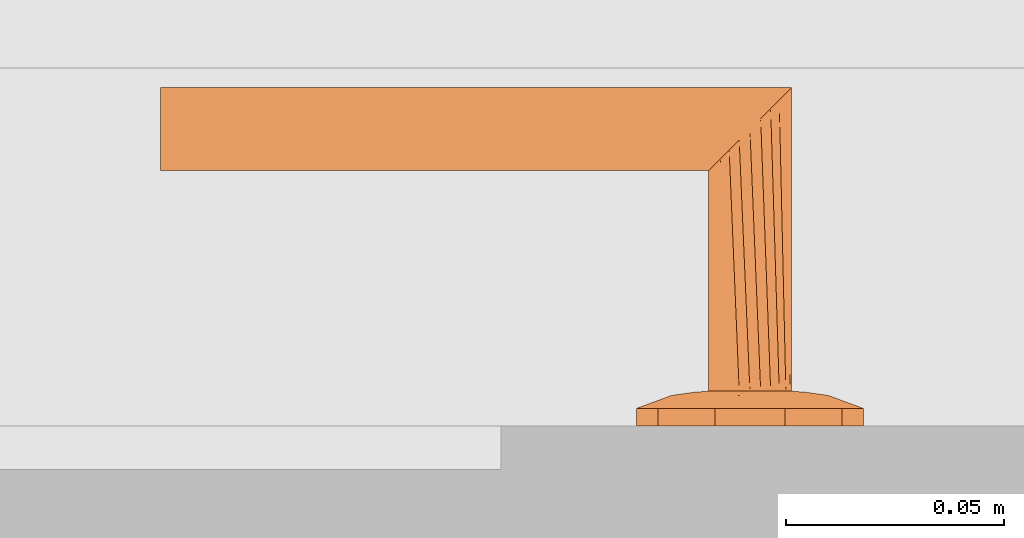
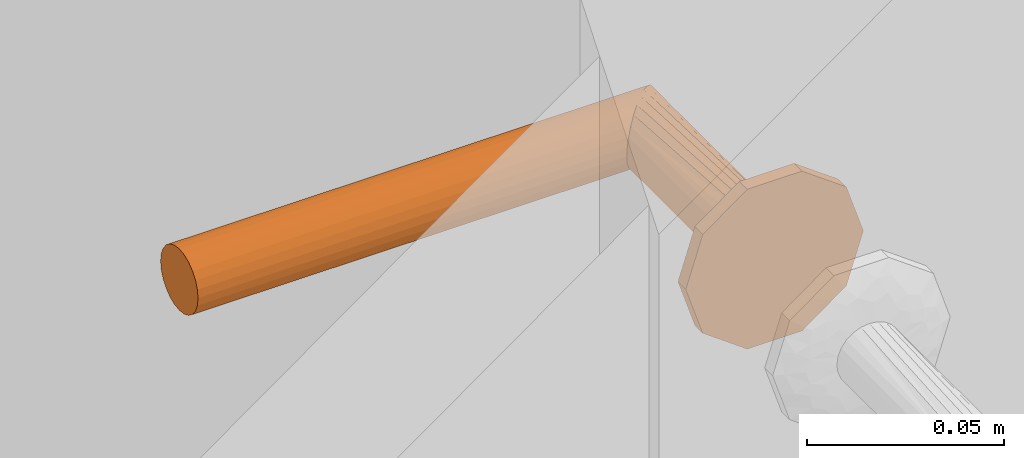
# One storey, part 23 of 55: 1 proxy.
"""IFC2X3 building model written with IfcOpenShell, lengths in millimetres."""

from ifc_helpers import new_model, entity, si_unit, converted_unit, direction, frame, origin, place, context, subcontext, project, spatial, faceted_brep, source, transform, mapped, material, type_object, type_shapes, element, save


model = new_model("IFC2X3")

# Units and contexts
model_context = context("Model", 3, precision=0.01, world=origin(), true_north=direction((6.123233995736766e-17, 1.0)))
plan_context = context("Plan", 3, precision=0.01, world=origin(), true_north=direction((6.123233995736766e-17, 1.0)))
body_context = subcontext(model_context, "Body", "Model", "MODEL_VIEW")
ifc_project = project(units=[si_unit("LENGTHUNIT", "METRE", prefix="MILLI"), converted_unit("PLANEANGLEUNIT", "DEGREE", entity("IfcPlaneAngleMeasure", 0.017453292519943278), si_unit("PLANEANGLEUNIT", "RADIAN"), dimensions=[0, 0, 0, 0, 0, 0, 0]), si_unit("AREAUNIT", "SQUARE_METRE")], contexts=[model_context, plan_context])

# Site, building, storey
site_placement = place(None, origin())
site = spatial("IfcSite", under=ifc_project, at=site_placement, Name="Default", CompositionType="ELEMENT")
building_placement = place(site_placement, origin())
building = spatial("IfcBuilding", under=site, at=building_placement, CompositionType="ELEMENT")
storey_placement = place(building_placement, origin())
storey = spatial("IfcBuildingStorey", under=building, at=storey_placement, Name="1K", CompositionType="ELEMENT", Elevation=0.0)

# Proxy
ifc_material = material(Name="<Unnamed>")
building_element_proxy_type = type_object("IfcBuildingElementProxyType", Name="Door-handle_Lever_ABLOY_INOXI_3-19ss-002_RT:Default", PredefinedType="NOTDEFINED", material=ifc_material)
shared_shape = source(origin(), body_context, "Body", "Brep", [
    faceted_brep([(0.0, 0.0, 0.0), (8.034441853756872, 24.72746942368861, 0.0), (14.534441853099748, 20.00494299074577, 0.0), (21.034441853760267, 15.282416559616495, 0.0), (23.51722092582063, 7.641208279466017, 0.0), (26.0, 0.0, 0.0), (23.517220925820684, -7.641208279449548, 0.0), (0.0, 24.72746942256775, 0.0), (-8.034441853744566, 24.727469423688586, 0.0), (-14.534441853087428, 20.00494299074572, 0.0), (-21.03444185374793, 15.282416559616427, 0.0), (-23.517220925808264, 7.641208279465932, 0.0), (-26.0, 0.0, 0.0), (21.034441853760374, -15.282416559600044, 0.0), (14.534441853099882, -20.004942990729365, 0.0), (8.034441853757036, -24.72746942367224, 0.0), (0.0, -24.72746942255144, 0.0), (-23.517220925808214, -7.641208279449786, 0.0), (-21.034441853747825, -15.282416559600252, 0.0), (-14.53444185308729, -20.004942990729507, 0.0), (-8.0344418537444, -24.72746942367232, 0.0), (0.0, 0.0, 8.0), (9.500000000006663, 0.0, 8.0), (8.312500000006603, 2.056810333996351, 8.0), (7.125000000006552, 4.113620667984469, 8.0), (5.937500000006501, 6.170431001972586, 8.0), (4.7500000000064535, 8.227241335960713, 8.0), (2.375000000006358, 8.2272413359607, 8.0), (0.0, 8.227241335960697, 8.0), (-2.3749999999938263, 8.227241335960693, 8.0), (-4.749999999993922, 8.227241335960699, 8.0), (-5.937499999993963, 6.1704310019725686, 8.0), (-7.124999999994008, 4.1136206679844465, 8.0), (-8.312499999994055, 2.0568103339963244, 8.0), (-9.499999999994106, 0.0, 8.0), (-8.31249999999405, -2.0568103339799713, 8.0), (8.312500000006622, -2.0568103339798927, 8.0), (7.125000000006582, -4.113620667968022, 8.0), (5.937500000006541, -6.170431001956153, 8.0), (4.750000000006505, -8.227241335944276, 8.0), (-7.124999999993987, -4.113620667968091, 8.0), (-5.9374999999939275, -6.17043100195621, 8.0), (-4.74999999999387, -8.227241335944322, 8.0), (-2.374999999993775, -8.227241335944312, 8.0), (0.0, -8.227241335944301, 8.0), (2.3750000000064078, -8.227241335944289, 8.0), (-20.6430713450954, 6.292822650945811, 5.929480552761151), (-16.663919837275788, 7.932665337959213, 6.877259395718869), (-22.48876527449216, 10.806469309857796, 4.030771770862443), (-16.764060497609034, 3.8202578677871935, 7.1747985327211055), (-12.504579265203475, 5.179566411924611, 7.774932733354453), (-11.979136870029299, 13.678312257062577, 6.945778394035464), (-11.963426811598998, 8.62529041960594, 7.618343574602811), (-9.07172672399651, 10.31160661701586, 7.7520782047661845), (8.03444185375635, 24.727469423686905, 4.030771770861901), (0.0, 24.72746942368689, 4.030771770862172), (5.758554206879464, 20.96753300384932, 5.871476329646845), (20.643071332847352, 6.292822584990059, 5.929480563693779), (22.488765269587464, 10.806469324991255, 4.03077177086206), (16.66391982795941, 7.9326653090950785, 6.877259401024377), (9.49943163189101, 18.6436835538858, 6.154325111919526), (14.534441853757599, 20.004942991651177, 4.030771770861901), (-14.534441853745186, 20.00494299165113, 4.030771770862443), (-21.034441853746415, 15.282416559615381, 4.030771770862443), (-15.783149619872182, 11.991003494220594, 6.50080018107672), (-23.943088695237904, 6.330522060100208, 4.030771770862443), (-23.012042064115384, 0.0, 5.135401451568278), (12.50457924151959, 5.179566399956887, 7.774932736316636), (11.963426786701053, 8.625290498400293, 7.618343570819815), (16.76406041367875, 3.820257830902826, 7.17479855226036), (15.783149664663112, 11.991003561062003, 6.50080015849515), (23.01204200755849, 0.0, 5.135401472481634), (17.9853516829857, 0.0, 6.993737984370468), (8.661516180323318, 10.478936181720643, 7.768126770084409), (-3.3573143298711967, 21.197247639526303, 5.971427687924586), (-8.03444185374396, 24.727469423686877, 4.030771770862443), (-7.711266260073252, 12.76034452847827, 7.594456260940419), (-5.97325794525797, 16.43013906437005, 7.110979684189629), (-9.94191586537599, 17.061976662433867, 6.522757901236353), (11.979136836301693, 13.678312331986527, 6.945778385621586), (5.953298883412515, 16.50608604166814, 7.096344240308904), (7.511307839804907, 13.358932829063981, 7.529187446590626), (-1.5654593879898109, 15.307443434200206, 7.519134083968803), (-7.784980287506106, 20.476295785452, 5.812837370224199), (2.8135289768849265, 17.763922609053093, 6.993737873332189), (-17.985351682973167, 0.0, 6.993737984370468), (-26.0, 0.0, 4.030771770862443), (-23.51722092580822, 7.641208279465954, 4.030771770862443), (26.0, 0.0, 4.030771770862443), (24.308823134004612, 5.204907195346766, 4.030771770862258), (23.943088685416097, 6.330522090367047, 4.030771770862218), (21.03444185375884, 15.282416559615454, 4.030771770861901), (22.617646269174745, 10.40981439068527, 4.030771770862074), (20.6430713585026, -6.292822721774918, 5.929480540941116), (16.663919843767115, -7.932665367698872, 6.877259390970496), (22.48876527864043, -10.8064692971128, 4.030771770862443), (16.764060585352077, -3.8202579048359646, 7.174798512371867), (12.504579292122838, -5.17956641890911, 7.774932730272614), (11.979136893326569, -13.678312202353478, 6.9457784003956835), (11.963426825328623, -8.62529034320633, 7.618343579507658), (9.071726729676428, -10.311606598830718, 7.752078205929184), (-8.03444185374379, -24.727469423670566, 4.030771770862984), (0.0, -24.727469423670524, 4.030771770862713), (-5.758554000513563, -20.96753314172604, 5.8714763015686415), (-20.643071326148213, -6.292822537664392, 5.929480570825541), (-22.488765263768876, -10.80646934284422, 4.030771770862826), (-16.66391981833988, -7.932665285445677, 6.877259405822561), (-9.499431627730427, -18.643683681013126, 6.154325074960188), (-14.534441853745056, -20.004942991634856, 4.030771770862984), (14.53444185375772, -20.00494299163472, 4.030771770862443), (21.034441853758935, -15.282416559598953, 4.030771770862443), (15.783149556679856, -11.991003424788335, 6.5008002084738), (23.943088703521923, -6.330522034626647, 4.030771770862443), (-12.504579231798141, -5.17956638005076, 7.77493273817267), (-11.963426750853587, -8.625290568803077, 7.618343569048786), (-16.764060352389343, -3.8202577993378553, 7.174798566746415), (-15.783149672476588, -11.991003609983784, 6.500800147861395), (-8.661516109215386, -10.478936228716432, 7.768126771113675), (3.3573144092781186, -21.197247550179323, 5.971427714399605), (8.034441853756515, -24.727469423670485, 4.030771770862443), (7.711266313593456, -12.760344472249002, 7.5944562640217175), (5.9732581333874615, -16.430139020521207, 7.110979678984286), (9.941915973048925, -17.06197655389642, 6.522757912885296), (-11.979136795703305, -13.678312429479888, 6.945778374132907), (-5.953298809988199, -16.506086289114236, 7.096344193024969), (-7.511307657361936, -13.358932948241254, 7.5291874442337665), (1.5654596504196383, -15.3074431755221, 7.519134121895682), (7.784980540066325, -20.476295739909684, 5.812837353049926), (-2.81352881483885, -17.76392263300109, 6.993737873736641), (23.517220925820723, -7.64120827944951, 4.030771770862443), (-24.308823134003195, -5.20490719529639, 4.030771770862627), (-23.943088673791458, -6.330522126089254, 4.030771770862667), (-21.034441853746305, -15.282416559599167, 4.030771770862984), (-22.617646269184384, -10.409814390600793, 4.0307717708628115)], [[[0, 1, 2]], [[0, 2, 3]], [[0, 3, 4]], [[0, 4, 5]], [[0, 5, 6]], [[0, 7, 1]], [[0, 8, 7]], [[0, 9, 8]], [[0, 10, 9]], [[0, 11, 10]], [[0, 12, 11]], [[0, 6, 13]], [[0, 13, 14]], [[0, 14, 15]], [[0, 15, 16]], [[0, 17, 12]], [[0, 18, 17]], [[0, 19, 18]], [[0, 20, 19]], [[0, 16, 20]], [[21, 22, 23]], [[21, 23, 24]], [[21, 24, 25]], [[21, 25, 26]], [[21, 26, 27]], [[21, 27, 28]], [[21, 28, 29]], [[21, 29, 30]], [[21, 30, 31]], [[21, 31, 32]], [[21, 32, 33]], [[21, 33, 34]], [[21, 34, 35]], [[21, 36, 22]], [[21, 37, 36]], [[21, 38, 37]], [[21, 39, 38]], [[21, 35, 40]], [[21, 40, 41]], [[21, 41, 42]], [[21, 42, 43]], [[21, 43, 44]], [[21, 44, 45]], [[21, 45, 39]], [[46, 47, 48]], [[49, 50, 47]], [[33, 32, 50]], [[51, 52, 53]], [[32, 52, 50]], [[49, 47, 46]], [[54, 55, 56]], [[57, 58, 59]], [[60, 61, 54]], [[62, 63, 64]], [[46, 65, 66]], [[67, 59, 68]], [[23, 69, 67]], [[70, 68, 59]], [[23, 22, 69]], [[52, 51, 64]], [[71, 69, 72]], [[73, 25, 68]], [[74, 55, 75]], [[76, 77, 78]], [[70, 61, 79]], [[71, 57, 69]], [[60, 80, 81]], [[51, 76, 78]], [[77, 29, 82]], [[26, 81, 27]], [[74, 83, 77]], [[77, 82, 74]], [[74, 84, 55]], [[34, 49, 85]], [[23, 67, 24]], [[28, 84, 82]], [[74, 82, 84]], [[29, 76, 30]], [[29, 28, 82]], [[49, 34, 33]], [[47, 50, 52]], [[47, 52, 64]], [[50, 49, 33]], [[53, 76, 51]], [[52, 32, 31]], [[49, 66, 85]], [[86, 66, 65]], [[24, 67, 68]], [[83, 78, 77]], [[49, 46, 66]], [[48, 64, 63]], [[46, 48, 87, 65]], [[48, 47, 64]], [[59, 67, 69]], [[26, 73, 81]], [[79, 68, 70]], [[25, 24, 68]], [[71, 88, 89, 90]], [[22, 72, 69]], [[59, 69, 57]], [[79, 61, 60]], [[51, 62, 64]], [[70, 58, 91]], [[90, 57, 71]], [[58, 70, 59]], [[57, 90, 92]], [[79, 60, 81]], [[61, 70, 91]], [[56, 80, 60]], [[79, 81, 73]], [[80, 84, 27]], [[79, 73, 68]], [[27, 84, 28]], [[25, 73, 26]], [[77, 76, 29]], [[31, 30, 53]], [[78, 62, 51]], [[75, 62, 83]], [[78, 83, 62]], [[75, 83, 74]], [[76, 53, 30]], [[31, 53, 52]], [[81, 80, 27]], [[84, 80, 56]], [[84, 56, 55]], [[54, 56, 60]], [[93, 94, 95]], [[96, 97, 94]], [[36, 37, 97]], [[98, 99, 100]], [[37, 99, 97]], [[96, 94, 93]], [[101, 102, 103]], [[104, 105, 106]], [[107, 108, 101]], [[109, 110, 111]], [[93, 112, 71]], [[113, 106, 114]], [[35, 115, 113]], [[116, 114, 106]], [[35, 34, 115]], [[99, 98, 111]], [[66, 115, 85]], [[117, 41, 114]], [[118, 102, 119]], [[120, 121, 122]], [[116, 108, 123]], [[66, 104, 115]], [[107, 124, 125]], [[120, 45, 121]], [[121, 45, 126]], [[42, 125, 43]], [[118, 127, 121]], [[121, 126, 118]], [[118, 128, 102]], [[22, 96, 72]], [[35, 113, 40]], [[44, 128, 126]], [[118, 126, 128]], [[45, 120, 39]], [[45, 44, 126]], [[96, 22, 36]], [[94, 97, 99]], [[94, 99, 111]], [[97, 96, 36]], [[100, 120, 98]], [[99, 37, 38]], [[96, 71, 72]], [[88, 71, 112]], [[40, 113, 114]], [[127, 122, 121]], [[96, 93, 71]], [[95, 111, 110]], [[93, 95, 129, 112]], [[95, 94, 111]], [[106, 113, 115]], [[42, 117, 125]], [[123, 114, 116]], [[41, 40, 114]], [[66, 86, 130, 131]], [[34, 85, 115]], [[106, 115, 104]], [[123, 108, 107]], [[98, 109, 111]], [[116, 105, 132]], [[131, 104, 66]], [[105, 116, 106]], [[104, 131, 133]], [[123, 107, 125]], [[108, 116, 132]], [[103, 124, 107]], [[123, 125, 117]], [[124, 128, 43]], [[123, 117, 114]], [[43, 128, 44]], [[41, 117, 42]], [[38, 39, 100]], [[98, 120, 122]], [[122, 109, 98]], [[119, 109, 127]], [[122, 127, 109]], [[119, 127, 118]], [[120, 100, 39]], [[38, 100, 99]], [[125, 124, 43]], [[128, 124, 103]], [[128, 103, 102]], [[101, 103, 107]], [[9, 10, 63, 62, 75, 8]], [[11, 12, 86, 65, 87, 48, 63, 10]], [[4, 3, 92, 90, 89, 88, 5]], [[3, 91, 58]], [[55, 54, 1, 7, 8, 75]], [[3, 2, 1, 54, 61, 91]], [[13, 6, 5, 88, 112, 129, 95, 110]], [[119, 15, 14, 13, 110, 109]], [[17, 18, 133, 131, 130, 86, 12]], [[18, 132, 105]], [[102, 101, 20, 16, 15, 119]], [[18, 19, 20, 101, 108, 132]], [[57, 92, 58]], [[104, 133, 105]], [[3, 58, 92]], [[18, 105, 133]]]),
    faceted_brep([(0.0, 9.499999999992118, 8.0), (2.4587809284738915, 9.176295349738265, 8.0), (4.7499999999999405, 8.22724133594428, 8.0), (6.717514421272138, 6.7175144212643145, 8.0), (8.227241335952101, 4.749999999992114, 8.0), (9.17629534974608, 2.458780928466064, 8.0), (9.499999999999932, 0.0, 8.0), (9.17629534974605, -2.458780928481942, 8.0), (8.22724133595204, -4.75000000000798, 8.0), (6.717514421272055, -6.717514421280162, 8.0), (4.7499999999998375, -8.227241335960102, 8.0), (2.4587809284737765, -9.176295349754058, 8.0), (0.0, -9.500000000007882, 8.0), (-2.4587809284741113, -9.176295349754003, 8.0), (-4.750000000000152, -8.227241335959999, 8.0), (-6.717514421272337, -6.717514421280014, 8.0), (-8.227241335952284, -4.750000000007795, 8.0), (-9.176295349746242, -2.458780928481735, 8.0), (-9.500000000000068, 0.0, 8.0), (-9.176295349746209, 2.4587809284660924, 8.0), (-8.227241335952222, 4.74999999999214, 8.0), (-6.717514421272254, 6.717514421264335, 8.0), (-4.7500000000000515, 8.227241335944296, 8.0), (-2.4587809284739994, 9.176295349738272, 8.0), (-6.717514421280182, -6.7175144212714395, 61.282485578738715), (-8.227241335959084, -4.7499999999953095, 59.772758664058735), (-9.176295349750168, -2.458780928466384, 58.82370465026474), (-2.4587809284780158, -9.176295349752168, 65.54121907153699), (-4.750000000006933, -8.227241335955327, 63.25000000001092), (-9.500000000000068, 0.0, 58.50000000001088), (0.0, -9.50000000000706, 68.0), (2.4587809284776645, -9.17629534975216, 70.45878092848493), (4.750000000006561, -8.227241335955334, 72.75000000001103), (6.717514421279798, -6.7175144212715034, 74.71751442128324), (9.17629534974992, -2.458780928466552, 77.17629534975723), (8.22724133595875, -4.749999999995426, 76.22724133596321), (9.499999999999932, 0.0, 77.50000000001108), (9.176295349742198, 2.4587809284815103, 77.1762953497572), (8.227241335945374, 4.750000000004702, 76.22724133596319), (4.749999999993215, 8.227241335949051, 72.75000000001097), (6.7175144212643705, 6.717514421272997, 74.7175144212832), (2.4587809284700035, 9.17629534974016, 70.45878092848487), (-2.4587809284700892, 9.176295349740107, 65.54121907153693), (0.0, 9.49999999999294, 68.0), (-6.717514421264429, 6.717514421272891, 61.282485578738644), (-4.749999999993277, 8.227241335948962, 63.250000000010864), (-9.176295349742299, 2.458780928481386, 58.8237046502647), (-8.227241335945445, 4.750000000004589, 59.77275866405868), (-135.0, 9.500000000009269, 68.0), (-135.0, 9.176295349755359, 65.54121907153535), (-135.0, 8.227241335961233, 63.25000000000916), (-135.0, 6.7175144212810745, 61.28248557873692), (-135.0, 4.750000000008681, 59.772758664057), (-135.0, 2.458780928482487, 58.82370465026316), (-135.0, 0.0, 58.50000000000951), (-135.0, -2.458780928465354, 58.823704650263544), (-135.0, -4.749999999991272, 59.772758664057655), (-135.0, -6.717514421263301, 61.28248557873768), (-135.0, -8.227241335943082, 63.250000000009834), (-135.0, -9.17629534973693, 65.54121907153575), (-135.0, -9.499999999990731, 68.0), (-135.0, -9.17629534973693, 70.45878092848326), (-135.0, -8.227241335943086, 72.75000000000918), (-135.0, -6.717514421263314, 74.71751442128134), (-135.0, -4.749999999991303, 76.22724133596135), (-135.0, -2.4587809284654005, 77.17629534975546), (-135.0, 0.0, 77.5000000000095), (-135.0, 2.4587809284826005, 77.17629534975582), (-135.0, 4.750000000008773, 76.22724133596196), (-135.0, 6.717514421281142, 74.71751442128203), (-135.0, 8.227241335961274, 72.75000000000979), (-135.0, 9.176295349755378, 70.4587809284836)], [[[0, 1, 2, 3, 4, 5, 6, 7, 8, 9, 10, 11, 12, 13, 14, 15, 16, 17, 18, 19, 20, 21, 22, 23]], [[15, 24, 25, 16]], [[16, 25, 26, 17]], [[27, 28, 12]], [[12, 28, 13]], [[13, 28, 24]], [[18, 17, 26, 29]], [[24, 15, 14]], [[14, 13, 24]], [[11, 30, 27]], [[31, 9, 32]], [[32, 8, 33]], [[34, 35, 7]], [[7, 35, 33]], [[36, 34, 7, 6]], [[30, 11, 10]], [[11, 27, 12]], [[33, 8, 7]], [[8, 32, 9]], [[31, 10, 9]], [[10, 31, 30]], [[37, 36, 6, 5]], [[37, 5, 38]], [[39, 40, 4]], [[5, 40, 38]], [[41, 39, 3]], [[5, 4, 40]], [[42, 43, 1]], [[2, 1, 43]], [[2, 41, 3]], [[39, 4, 3]], [[2, 43, 41]], [[23, 44, 45]], [[0, 45, 42]], [[19, 18, 29, 46]], [[20, 19, 46, 47]], [[21, 20, 47, 44]], [[23, 22, 44]], [[45, 0, 23]], [[44, 22, 21]], [[1, 0, 42]], [[48, 49, 50, 51, 52, 53, 54, 55, 56, 57, 58, 59, 60, 61, 62, 63, 64, 65, 66, 67, 68, 69, 70, 71]], [[26, 25, 56, 55]], [[29, 26, 55, 54]], [[28, 27, 59, 58]], [[24, 28, 58, 57]], [[25, 24, 57, 56]], [[27, 30, 60, 59]], [[32, 33, 63, 62]], [[31, 32, 62, 61]], [[34, 36, 66, 65]], [[35, 34, 65, 64]], [[33, 35, 64, 63]], [[61, 60, 30, 31]], [[38, 68, 67, 37]], [[37, 67, 66, 36]], [[41, 71, 70, 39]], [[39, 70, 69, 40]], [[40, 69, 68, 38]], [[48, 71, 41, 43]], [[44, 51, 50, 45]], [[45, 50, 49, 42]], [[29, 54, 53, 46]], [[46, 53, 52, 47]], [[47, 52, 51, 44]], [[42, 49, 48, 43]]]),
])
type_shapes(building_element_proxy_type, [shared_shape])
proxy_placement = place(storey_placement, frame((6730.0, 1628.0, 1000.0), z_axis=(0.0, 1.0, 0.0), x_axis=(1.0, 0.0, 0.0)))
element("IfcBuildingElementProxy", 1, at=proxy_placement, inside=storey, type_object=building_element_proxy_type, material=ifc_material, Name="Door-handle_Lever_ABLOY_INOXI_3-19ss-002_RT:Default", ObjectType="Door-handle_Lever_ABLOY_INOXI_3-19ss-002_RT:Default", context=body_context, shape_type="MappedRepresentation", body=[
    mapped(shared_shape, transform((0.0, 0.0, 0.0), scale=1.0)),
])

save(model, "model.ifc")
